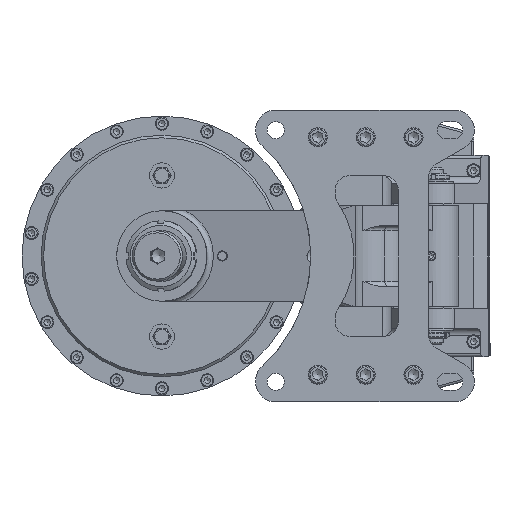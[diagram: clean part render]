
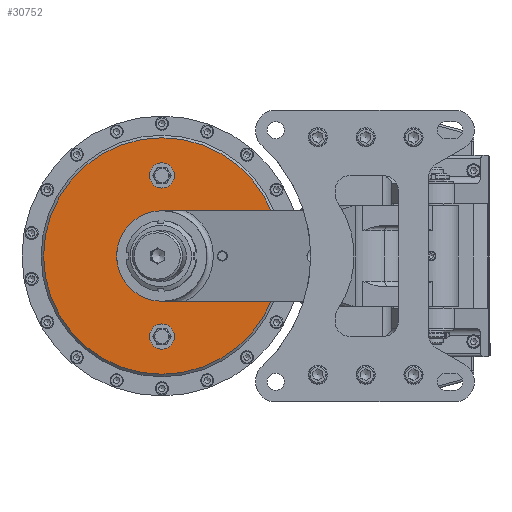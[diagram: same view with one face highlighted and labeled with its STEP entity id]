
A CAD part, left-side view. The second image highlights one B-rep face of the part: STEP entity #30752.
In plain terms, the highlighted planar face has unit normal (-1, 0, 0).
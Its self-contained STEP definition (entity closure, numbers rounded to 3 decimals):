
#933=FACE_BOUND('',#3898,.T.);
#934=FACE_BOUND('',#3899,.T.);
#935=FACE_BOUND('',#3900,.T.);
#1199=PLANE('',#32510);
#2208=FACE_OUTER_BOUND('',#3897,.T.);
#3897=EDGE_LOOP('',(#19767));
#3898=EDGE_LOOP('',(#19768,#19769));
#3899=EDGE_LOOP('',(#19770,#19771));
#3900=EDGE_LOOP('',(#19772,#19773));
#10258=CIRCLE('',#32511,117.5);
#10259=CIRCLE('',#32512,12.5);
#10260=CIRCLE('',#32513,12.5);
#10261=CIRCLE('',#32514,12.5);
#10262=CIRCLE('',#32515,12.5);
#10263=CIRCLE('',#32516,45.);
#10264=CIRCLE('',#32517,45.);
#11987=VERTEX_POINT('',#45147);
#11988=VERTEX_POINT('',#45149);
#11989=VERTEX_POINT('',#45150);
#11990=VERTEX_POINT('',#45153);
#11991=VERTEX_POINT('',#45154);
#11992=VERTEX_POINT('',#45157);
#11993=VERTEX_POINT('',#45158);
#15074=EDGE_CURVE('',#11987,#11987,#10258,.T.);
#15075=EDGE_CURVE('',#11988,#11989,#10259,.T.);
#15076=EDGE_CURVE('',#11989,#11988,#10260,.T.);
#15077=EDGE_CURVE('',#11990,#11991,#10261,.T.);
#15078=EDGE_CURVE('',#11991,#11990,#10262,.T.);
#15079=EDGE_CURVE('',#11992,#11993,#10263,.T.);
#15080=EDGE_CURVE('',#11993,#11992,#10264,.T.);
#19767=ORIENTED_EDGE('',*,*,#15074,.F.);
#19768=ORIENTED_EDGE('',*,*,#15075,.T.);
#19769=ORIENTED_EDGE('',*,*,#15076,.T.);
#19770=ORIENTED_EDGE('',*,*,#15077,.T.);
#19771=ORIENTED_EDGE('',*,*,#15078,.T.);
#19772=ORIENTED_EDGE('',*,*,#15079,.F.);
#19773=ORIENTED_EDGE('',*,*,#15080,.F.);
#30752=ADVANCED_FACE('',(#2208,#933,#934,#935),#1199,.T.);
#32510=AXIS2_PLACEMENT_3D('',#45146,#36081,#36082);
#32511=AXIS2_PLACEMENT_3D('',#45148,#36083,#36084);
#32512=AXIS2_PLACEMENT_3D('',#45151,#36085,#36086);
#32513=AXIS2_PLACEMENT_3D('',#45152,#36087,#36088);
#32514=AXIS2_PLACEMENT_3D('',#45155,#36089,#36090);
#32515=AXIS2_PLACEMENT_3D('',#45156,#36091,#36092);
#32516=AXIS2_PLACEMENT_3D('',#45159,#36093,#36094);
#32517=AXIS2_PLACEMENT_3D('',#45160,#36095,#36096);
#36081=DIRECTION('center_axis',(-1.,0.,0.));
#36082=DIRECTION('ref_axis',(0.,-1.,0.));
#36083=DIRECTION('center_axis',(1.,0.,0.));
#36084=DIRECTION('ref_axis',(0.,0.,
-1.));
#36085=DIRECTION('center_axis',(1.,0.,0.));
#36086=DIRECTION('ref_axis',(0.,-1.,0.));
#36087=DIRECTION('center_axis',(1.,0.,0.));
#36088=DIRECTION('ref_axis',(0.,-1.,0.));
#36089=DIRECTION('center_axis',(1.,0.,0.));
#36090=DIRECTION('ref_axis',(0.,1.,0.));
#36091=DIRECTION('center_axis',(1.,0.,0.));
#36092=DIRECTION('ref_axis',(0.,1.,0.));
#36093=DIRECTION('center_axis',(-1.,0.,0.));
#36094=DIRECTION('ref_axis',(0.,0.,
1.));
#36095=DIRECTION('center_axis',(-1.,0.,0.));
#36096=DIRECTION('ref_axis',(0.,0.,
1.));
#45146=CARTESIAN_POINT('Origin',(97.1,310.,223.));
#45147=CARTESIAN_POINT('',(97.1,310.,267.5));
#45148=CARTESIAN_POINT('Origin',(97.1,310.,150.));
#45149=CARTESIAN_POINT('',(97.1,297.5,230.));
#45150=CARTESIAN_POINT('',(97.1,322.5,230.));
#45151=CARTESIAN_POINT('Origin',(97.1,310.,230.));
#45152=CARTESIAN_POINT('Origin',(97.1,310.,230.));
#45153=CARTESIAN_POINT('',(97.1,322.5,70.));
#45154=CARTESIAN_POINT('',(97.1,297.5,70.));
#45155=CARTESIAN_POINT('Origin',(97.1,310.,70.));
#45156=CARTESIAN_POINT('Origin',(97.1,310.,70.));
#45157=CARTESIAN_POINT('',(97.1,310.,105.));
#45158=CARTESIAN_POINT('',(97.1,310.,195.));
#45159=CARTESIAN_POINT('Origin',(97.1,310.,150.));
#45160=CARTESIAN_POINT('Origin',(97.1,310.,150.));
